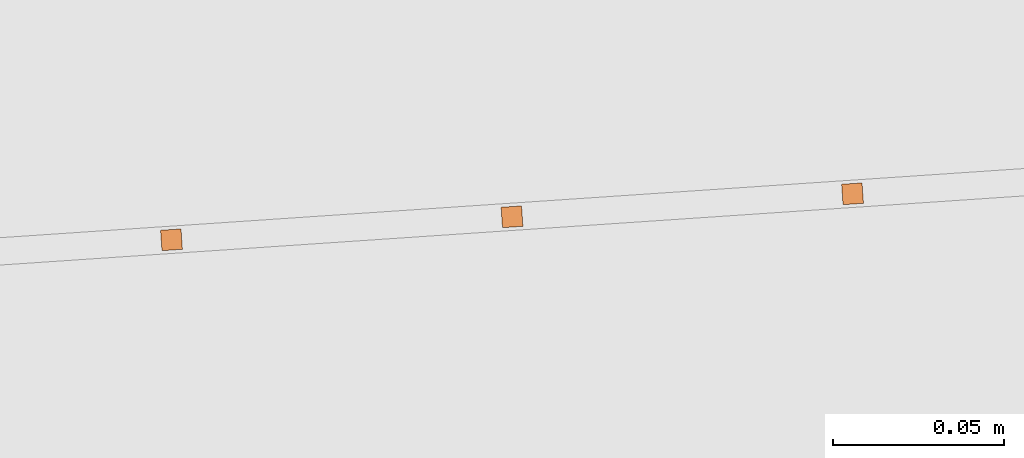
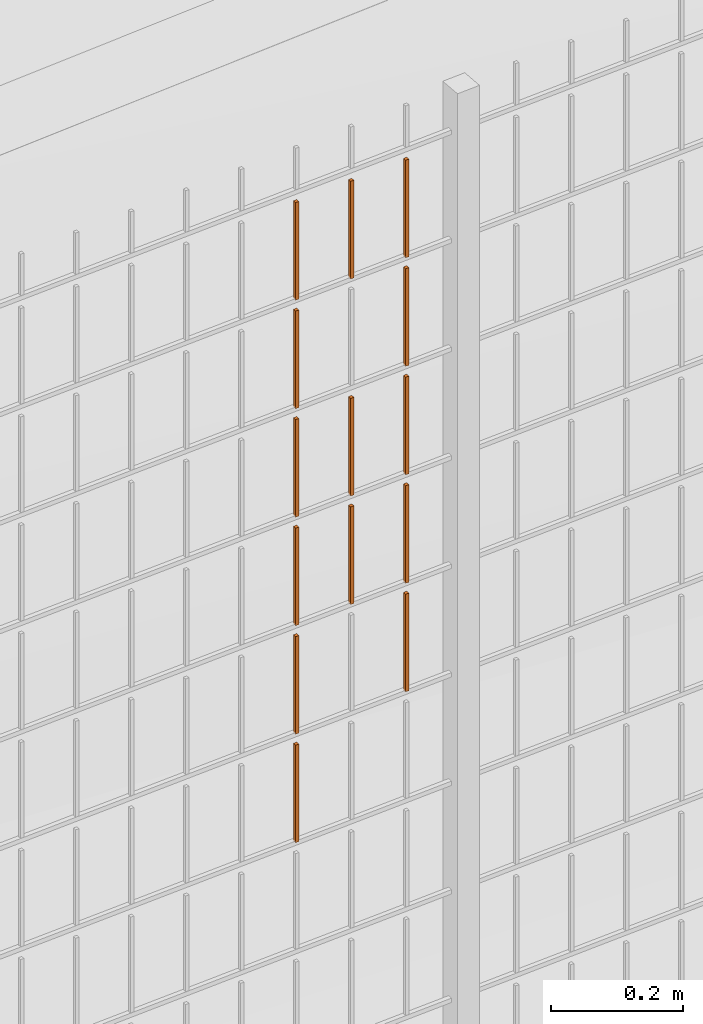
# One storey, part 388 of 1809: 14 proxies, 1 element without a shape of its own.
"""IFC2X3 building model written with IfcOpenShell, lengths in millimetres."""

from ifc_helpers import new_model, entity, si_unit, converted_unit, derived_unit, money_unit, direction, frame, origin_with_axes, place, context, subcontext, project, spatial, faceted_brep, source, transform, mapped, material, type_object, element, aggregate, save


model = new_model("IFC2X3")

# Units and contexts
model_context = context("Model", 3, precision=0.01, world=origin_with_axes(), true_north=direction((0.0, 1.0)))
body_context = subcontext(model_context, "Body", "Model", "MODEL_VIEW")
ifc_project = project(units=[si_unit("LENGTHUNIT", "METRE", prefix="MILLI"), si_unit("AREAUNIT", "SQUARE_METRE"), si_unit("VOLUMEUNIT", "CUBIC_METRE"), converted_unit("PLANEANGLEUNIT", "DEGREE", entity("IfcPlaneAngleMeasure", 0.0174532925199), si_unit("PLANEANGLEUNIT", "RADIAN"), dimensions=[0, 0, 0, 0, 0, 0, 0]), si_unit("SOLIDANGLEUNIT", "STERADIAN"), money_unit("EUR"), converted_unit("TIMEUNIT", "Year", entity("IfcTimeMeasure", 31556926.0), si_unit("TIMEUNIT", "SECOND"), dimensions=[0, 0, 1, 0, 0, 0, 0]), si_unit("MASSUNIT", "GRAM", prefix="KILO"), si_unit("THERMODYNAMICTEMPERATUREUNIT", "DEGREE_CELSIUS"), si_unit("LUMINOUSINTENSITYUNIT", "LUMEN"), si_unit("ENERGYUNIT", "JOULE", prefix="MEGA"), derived_unit("THERMALCONDUCTANCEUNIT", [(si_unit("POWERUNIT", "WATT"), 1), (si_unit("LENGTHUNIT", "METRE"), -1), (si_unit("THERMODYNAMICTEMPERATUREUNIT", "KELVIN"), -1)]), derived_unit("SPECIFICHEATCAPACITYUNIT", [(si_unit("ENERGYUNIT", "JOULE"), 1), (si_unit("MASSUNIT", "GRAM", prefix="KILO"), -1), (si_unit("THERMODYNAMICTEMPERATUREUNIT", "KELVIN"), -1)]), derived_unit("MASSDENSITYUNIT", [(si_unit("MASSUNIT", "GRAM", prefix="KILO"), 1), (si_unit("VOLUMEUNIT", "CUBIC_METRE"), -1)])], contexts=[model_context])

# Site, building, storey
site_placement = place(None, origin_with_axes())
site = spatial("IfcSite", under=ifc_project, at=site_placement, Name="Politse- ja Piirivalveameti ning Päästeameti ühishoone", CompositionType="ELEMENT")
building_placement = place(site_placement, origin_with_axes())
building = spatial("IfcBuilding", under=site, at=building_placement, Name="Politse- ja Piirivalveameti ning Päästeameti ühishoone", CompositionType="ELEMENT")
storey_placement = place(building_placement, origin_with_axes())
storey = spatial("IfcBuildingStorey", under=building, at=storey_placement, Name="Esimene korrus", CompositionType="ELEMENT", Elevation=0.0)

# Proxies
building_element_proxy_type_1 = type_object("IfcBuildingElementProxyType", Name="Railing Type", PredefinedType="NOTDEFINED")
proxy_1_placement = place(storey_placement, frame((89252.001212, -29183.4766571, 203.661247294), z_axis=(0.0, 0.0, 1.0), x_axis=(1.0, 0.0, 0.0)))
proxy_1 = element("IfcBuildingElementProxy", 1, at=proxy_1_placement, inside=storey, type_object=building_element_proxy_type_1, Name="PIIRDEAED")
ifc_material = material(Name="ET-03_Raud")
building_element_proxy_type_2 = type_object("IfcBuildingElementProxyType", Name="IfcBuildingElementProxy", PredefinedType="NOTDEFINED")
shared_shape_1 = source(origin_with_axes(), body_context, "Body", "Brep", [
    faceted_brep([(3.0, 3.0, -0.000752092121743), (-3.0, 3.0, -0.000752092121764), (-3.0, 3.0, 179.99926046), (3.0, 3.0, 179.99926046), (3.0, -3.0, 0.000752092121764), (-3.0, -3.0, 0.000752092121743), (-3.0, -3.0, 180.000764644), (3.0, -3.0, 180.000764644)], [[[0, 1, 2, 3]], [[0, 4, 5, 1]], [[1, 5, 6, 2]], [[3, 2, 6, 7]], [[4, 0, 3, 7]], [[5, 4, 7, 6]]]),
])
proxy_2_placement = place(proxy_1_placement, frame((-14992.5252487, -18310.4632624, 1423.4672343), z_axis=(0.0, 0.0, 1.0), x_axis=(1.0, 0.0, 0.0)))
proxy_2 = element("IfcBuildingElementProxy", 2, at=proxy_2_placement, type_object=building_element_proxy_type_2, material=ifc_material, Name="BALUSTER - 001", context=body_context, shape_type="MappedRepresentation", body=[
    mapped(shared_shape_1, transform((0.0, 0.0, 0.0), x_axis=(-0.0673926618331, 0.997726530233, 0.0), y_axis=(-0.997726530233, -0.0673926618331, 0.0), z_axis=(0.0, 0.0, 1.0))),
])
shared_shape_2 = source(origin_with_axes(), body_context, "Body", "Brep", [
    faceted_brep([(3.0, 3.0, -0.000752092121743), (-3.0, 3.0, -0.000752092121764), (-3.0, 3.0, 179.99926046), (3.0, 3.0, 179.99926046), (3.0, -3.0, 0.000752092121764), (-3.0, -3.0, 0.000752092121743), (-3.0, -3.0, 180.000764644), (3.0, -3.0, 180.000764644)], [[[0, 1, 2, 3]], [[0, 4, 5, 1]], [[1, 5, 6, 2]], [[3, 2, 6, 7]], [[4, 0, 3, 7]], [[5, 4, 7, 6]]]),
])
proxy_3_placement = place(proxy_1_placement, frame((-14992.5252487, -18310.4632624, 1223.4672343), z_axis=(0.0, 0.0, 1.0), x_axis=(1.0, 0.0, 0.0)))
proxy_3 = element("IfcBuildingElementProxy", 3, at=proxy_3_placement, type_object=building_element_proxy_type_2, material=ifc_material, Name="BALUSTER - 001", context=body_context, shape_type="MappedRepresentation", body=[
    mapped(shared_shape_2, transform((0.0, 0.0, 0.0), x_axis=(-0.0673926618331, 0.997726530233, 0.0), y_axis=(-0.997726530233, -0.0673926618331, 0.0), z_axis=(0.0, 0.0, 1.0))),
])
shared_shape_3 = source(origin_with_axes(), body_context, "Body", "Brep", [
    faceted_brep([(3.0, 3.0, -0.000752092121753), (-3.0, 3.0, -0.000752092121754), (-3.0, 3.0, 179.99926046), (3.0, 3.0, 179.99926046), (3.0, -3.0, 0.000752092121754), (-3.0, -3.0, 0.000752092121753), (-3.0, -3.0, 180.000764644), (3.0, -3.0, 180.000764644)], [[[0, 1, 2, 3]], [[0, 4, 5, 1]], [[1, 5, 6, 2]], [[3, 2, 6, 7]], [[4, 0, 3, 7]], [[5, 4, 7, 6]]]),
])
proxy_4_placement = place(proxy_1_placement, frame((-15092.2979017, -18317.2025286, 823.44216456), z_axis=(0.0, 0.0, 1.0), x_axis=(1.0, 0.0, 0.0)))
proxy_4 = element("IfcBuildingElementProxy", 4, at=proxy_4_placement, type_object=building_element_proxy_type_2, material=ifc_material, Name="BALUSTER - 001", context=body_context, shape_type="MappedRepresentation", body=[
    mapped(shared_shape_3, transform((0.0, 0.0, 0.0), x_axis=(-0.0673926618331, 0.997726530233, 0.0), y_axis=(-0.997726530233, -0.0673926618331, 0.0), z_axis=(0.0, 0.0, 1.0))),
])
proxy_5_placement = place(proxy_1_placement, frame((-15092.2979017, -18317.2025286, 1823.44216456), z_axis=(0.0, 0.0, 1.0), x_axis=(1.0, 0.0, 0.0)))
proxy_5 = element("IfcBuildingElementProxy", 5, at=proxy_5_placement, type_object=building_element_proxy_type_2, material=ifc_material, Name="BALUSTER - 001", context=body_context, shape_type="MappedRepresentation", body=[
    mapped(shared_shape_3, transform((0.0, 0.0, 0.0), x_axis=(-0.0673926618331, 0.997726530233, 0.0), y_axis=(-0.997726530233, -0.0673926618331, 0.0), z_axis=(0.0, 0.0, 1.0))),
])
shared_shape_4 = source(origin_with_axes(), body_context, "Body", "Brep", [
    faceted_brep([(3.0, 3.0, -0.000752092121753), (-3.0, 3.0, -0.000752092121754), (-3.0, 3.0, 179.99926046), (3.0, 3.0, 179.99926046), (3.0, -3.0, 0.000752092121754), (-3.0, -3.0, 0.000752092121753), (-3.0, -3.0, 180.000764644), (3.0, -3.0, 180.000764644)], [[[0, 1, 2, 3]], [[0, 4, 5, 1]], [[1, 5, 6, 2]], [[3, 2, 6, 7]], [[4, 0, 3, 7]], [[5, 4, 7, 6]]]),
])
proxy_6_placement = place(proxy_1_placement, frame((-15092.2979017, -18317.2025286, 1223.44216456), z_axis=(0.0, 0.0, 1.0), x_axis=(1.0, 0.0, 0.0)))
proxy_6 = element("IfcBuildingElementProxy", 6, at=proxy_6_placement, type_object=building_element_proxy_type_2, material=ifc_material, Name="BALUSTER - 001", context=body_context, shape_type="MappedRepresentation", body=[
    mapped(shared_shape_4, transform((0.0, 0.0, 0.0), x_axis=(-0.0673926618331, 0.997726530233, 0.0), y_axis=(-0.997726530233, -0.0673926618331, 0.0), z_axis=(0.0, 0.0, 1.0))),
])
shared_shape_5 = source(origin_with_axes(), body_context, "Body", "Brep", [
    faceted_brep([(3.0, 3.0, -0.000752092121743), (-3.0, 3.0, -0.000752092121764), (-3.0, 3.0, 179.99926046), (3.0, 3.0, 179.99926046), (3.0, -3.0, 0.000752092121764), (-3.0, -3.0, 0.000752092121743), (-3.0, -3.0, 180.000764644), (3.0, -3.0, 180.000764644)], [[[0, 1, 2, 3]], [[0, 4, 5, 1]], [[1, 5, 6, 2]], [[3, 2, 6, 7]], [[4, 0, 3, 7]], [[5, 4, 7, 6]]]),
])
proxy_7_placement = place(proxy_1_placement, frame((-14992.5252487, -18310.4632624, 1823.4672343), z_axis=(0.0, 0.0, 1.0), x_axis=(1.0, 0.0, 0.0)))
proxy_7 = element("IfcBuildingElementProxy", 7, at=proxy_7_placement, type_object=building_element_proxy_type_2, material=ifc_material, Name="BALUSTER - 001", context=body_context, shape_type="MappedRepresentation", body=[
    mapped(shared_shape_5, transform((0.0, 0.0, 0.0), x_axis=(-0.0673926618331, 0.997726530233, 0.0), y_axis=(-0.997726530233, -0.0673926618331, 0.0), z_axis=(0.0, 0.0, 1.0))),
])
shared_shape_6 = source(origin_with_axes(), body_context, "Body", "Brep", [
    faceted_brep([(3.0, 3.0, -0.000752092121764), (-3.0, 3.0, -0.000752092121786), (-3.0, 3.0, 179.99926046), (3.0, 3.0, 179.99926046), (3.0, -3.0, 0.000752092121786), (-3.0, -3.0, 0.000752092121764), (-3.0, -3.0, 180.000764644), (3.0, -3.0, 180.000764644)], [[[0, 1, 2, 3]], [[0, 4, 5, 1]], [[1, 5, 6, 2]], [[3, 2, 6, 7]], [[4, 0, 3, 7]], [[5, 4, 7, 6]]]),
])
proxy_8_placement = place(proxy_1_placement, frame((-14892.7525957, -18303.7239962, 1223.49230403), z_axis=(0.0, 0.0, 1.0), x_axis=(1.0, 0.0, 0.0)))
proxy_8 = element("IfcBuildingElementProxy", 8, at=proxy_8_placement, type_object=building_element_proxy_type_2, material=ifc_material, Name="BALUSTER - 001", context=body_context, shape_type="MappedRepresentation", body=[
    mapped(shared_shape_6, transform((0.0, 0.0, 0.0), x_axis=(-0.0673926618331, 0.997726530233, 0.0), y_axis=(-0.997726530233, -0.0673926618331, 0.0), z_axis=(0.0, 0.0, 1.0))),
])
shared_shape_7 = source(origin_with_axes(), body_context, "Body", "Brep", [
    faceted_brep([(3.0, 3.0, -0.000752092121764), (-3.0, 3.0, -0.000752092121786), (-3.0, 3.0, 179.99926046), (3.0, 3.0, 179.99926046), (3.0, -3.0, 0.000752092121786), (-3.0, -3.0, 0.000752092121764), (-3.0, -3.0, 180.000764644), (3.0, -3.0, 180.000764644)], [[[0, 1, 2, 3]], [[0, 4, 5, 1]], [[1, 5, 6, 2]], [[3, 2, 6, 7]], [[4, 0, 3, 7]], [[5, 4, 7, 6]]]),
])
proxy_9_placement = place(proxy_1_placement, frame((-14892.7525957, -18303.7239962, 1823.49230403), z_axis=(0.0, 0.0, 1.0), x_axis=(1.0, 0.0, 0.0)))
proxy_9 = element("IfcBuildingElementProxy", 9, at=proxy_9_placement, type_object=building_element_proxy_type_2, material=ifc_material, Name="BALUSTER - 001", context=body_context, shape_type="MappedRepresentation", body=[
    mapped(shared_shape_7, transform((0.0, 0.0, 0.0), x_axis=(-0.0673926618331, 0.997726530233, 0.0), y_axis=(-0.997726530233, -0.0673926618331, 0.0), z_axis=(0.0, 0.0, 1.0))),
])
shared_shape_8 = source(origin_with_axes(), body_context, "Body", "Brep", [
    faceted_brep([(3.0, 3.0, -0.000752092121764), (-3.0, 3.0, -0.000752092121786), (-3.0, 3.0, 179.99926046), (3.0, 3.0, 179.99926046), (3.0, -3.0, 0.000752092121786), (-3.0, -3.0, 0.000752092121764), (-3.0, -3.0, 180.000764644), (3.0, -3.0, 180.000764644)], [[[0, 1, 2, 3]], [[0, 4, 5, 1]], [[1, 5, 6, 2]], [[3, 2, 6, 7]], [[4, 0, 3, 7]], [[5, 4, 7, 6]]]),
])
proxy_10_placement = place(proxy_1_placement, frame((-14892.7525957, -18303.7239962, 1423.49230403), z_axis=(0.0, 0.0, 1.0), x_axis=(1.0, 0.0, 0.0)))
proxy_10 = element("IfcBuildingElementProxy", 10, at=proxy_10_placement, type_object=building_element_proxy_type_2, material=ifc_material, Name="BALUSTER - 001", context=body_context, shape_type="MappedRepresentation", body=[
    mapped(shared_shape_8, transform((0.0, 0.0, 0.0), x_axis=(-0.0673926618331, 0.997726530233, 0.0), y_axis=(-0.997726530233, -0.0673926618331, 0.0), z_axis=(0.0, 0.0, 1.0))),
])
shared_shape_9 = source(origin_with_axes(), body_context, "Body", "Brep", [
    faceted_brep([(3.0, 3.0, -0.000752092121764), (-3.0, 3.0, -0.000752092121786), (-3.0, 3.0, 179.99926046), (3.0, 3.0, 179.99926046), (3.0, -3.0, 0.000752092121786), (-3.0, -3.0, 0.000752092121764), (-3.0, -3.0, 180.000764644), (3.0, -3.0, 180.000764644)], [[[0, 1, 2, 3]], [[0, 4, 5, 1]], [[1, 5, 6, 2]], [[3, 2, 6, 7]], [[4, 0, 3, 7]], [[5, 4, 7, 6]]]),
])
proxy_11_placement = place(proxy_1_placement, frame((-14892.7525957, -18303.7239962, 1623.49230403), z_axis=(0.0, 0.0, 1.0), x_axis=(1.0, 0.0, 0.0)))
proxy_11 = element("IfcBuildingElementProxy", 11, at=proxy_11_placement, type_object=building_element_proxy_type_2, material=ifc_material, Name="BALUSTER - 001", context=body_context, shape_type="MappedRepresentation", body=[
    mapped(shared_shape_9, transform((0.0, 0.0, 0.0), x_axis=(-0.0673926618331, 0.997726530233, 0.0), y_axis=(-0.997726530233, -0.0673926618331, 0.0), z_axis=(0.0, 0.0, 1.0))),
])
shared_shape_10 = source(origin_with_axes(), body_context, "Body", "Brep", [
    faceted_brep([(3.0, 3.0, -0.000752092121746), (-3.0, 3.0, -0.000752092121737), (-3.00000000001, 2.99999999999, 179.99926046), (2.99999999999, 2.99999999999, 179.99926046), (3.0, -3.0, 0.000752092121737), (-3.0, -3.0, 0.000752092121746), (-3.00000000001, -3.00000000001, 180.000764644), (2.99999999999, -3.00000000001, 180.000764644)], [[[0, 1, 2, 3]], [[0, 4, 5, 1]], [[1, 5, 6, 2]], [[3, 2, 6, 7]], [[4, 0, 3, 7]], [[5, 4, 7, 6]]]),
])
proxy_12_placement = place(proxy_1_placement, frame((-15092.2979017, -18317.2025286, 1023.44216456), z_axis=(0.0, 0.0, 1.0), x_axis=(1.0, 0.0, 0.0)))
proxy_12 = element("IfcBuildingElementProxy", 12, at=proxy_12_placement, type_object=building_element_proxy_type_2, material=ifc_material, Name="BALUSTER - 001", context=body_context, shape_type="MappedRepresentation", body=[
    mapped(shared_shape_10, transform((0.0, 0.0, 0.0), x_axis=(-0.0673926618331, 0.997726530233, 0.0), y_axis=(-0.997726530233, -0.0673926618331, 0.0), z_axis=(0.0, 0.0, 1.0))),
])
shared_shape_11 = source(origin_with_axes(), body_context, "Body", "Brep", [
    faceted_brep([(3.0, 3.0, -0.000752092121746), (-3.0, 3.0, -0.000752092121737), (-3.00000000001, 2.99999999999, 179.99926046), (2.99999999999, 2.99999999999, 179.99926046), (3.0, -3.0, 0.000752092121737), (-3.0, -3.0, 0.000752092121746), (-3.00000000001, -3.00000000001, 180.000764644), (2.99999999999, -3.00000000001, 180.000764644)], [[[0, 1, 2, 3]], [[0, 4, 5, 1]], [[1, 5, 6, 2]], [[3, 2, 6, 7]], [[4, 0, 3, 7]], [[5, 4, 7, 6]]]),
])
proxy_13_placement = place(proxy_1_placement, frame((-14892.7525957, -18303.7239962, 1023.49230403), z_axis=(0.0, 0.0, 1.0), x_axis=(1.0, 0.0, 0.0)))
proxy_13 = element("IfcBuildingElementProxy", 13, at=proxy_13_placement, type_object=building_element_proxy_type_2, material=ifc_material, Name="BALUSTER - 001", context=body_context, shape_type="MappedRepresentation", body=[
    mapped(shared_shape_11, transform((0.0, 0.0, 0.0), x_axis=(-0.0673926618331, 0.997726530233, 0.0), y_axis=(-0.997726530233, -0.0673926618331, 0.0), z_axis=(0.0, 0.0, 1.0))),
])
shared_shape_12 = source(origin_with_axes(), body_context, "Body", "Brep", [
    faceted_brep([(3.0, 3.0, -0.000752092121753), (-3.0, 3.0, -0.000752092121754), (-3.0, 3.0, 179.99926046), (3.0, 3.0, 179.99926046), (3.0, -3.0, 0.000752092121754), (-3.0, -3.0, 0.000752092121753), (-3.0, -3.0, 180.000764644), (3.0, -3.0, 180.000764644)], [[[0, 1, 2, 3]], [[0, 4, 5, 1]], [[1, 5, 6, 2]], [[3, 2, 6, 7]], [[4, 0, 3, 7]], [[5, 4, 7, 6]]]),
])
proxy_14_placement = place(proxy_1_placement, frame((-15092.2979017, -18317.2025286, 1423.44216456), z_axis=(0.0, 0.0, 1.0), x_axis=(1.0, 0.0, 0.0)))
proxy_14 = element("IfcBuildingElementProxy", 14, at=proxy_14_placement, type_object=building_element_proxy_type_2, material=ifc_material, Name="BALUSTER - 001", context=body_context, shape_type="MappedRepresentation", body=[
    mapped(shared_shape_12, transform((0.0, 0.0, 0.0), x_axis=(-0.0673926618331, 0.997726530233, 0.0), y_axis=(-0.997726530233, -0.0673926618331, 0.0), z_axis=(0.0, 0.0, 1.0))),
])
proxy_15_placement = place(proxy_1_placement, frame((-15092.2979017, -18317.2025286, 1623.44216456), z_axis=(0.0, 0.0, 1.0), x_axis=(1.0, 0.0, 0.0)))
proxy_15 = element("IfcBuildingElementProxy", 15, at=proxy_15_placement, type_object=building_element_proxy_type_2, material=ifc_material, Name="BALUSTER - 001", context=body_context, shape_type="MappedRepresentation", body=[
    mapped(shared_shape_12, transform((0.0, 0.0, 0.0), x_axis=(-0.0673926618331, 0.997726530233, 0.0), y_axis=(-0.997726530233, -0.0673926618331, 0.0), z_axis=(0.0, 0.0, 1.0))),
])
aggregate(proxy_1, [proxy_4, proxy_13, proxy_12, proxy_8, proxy_3, proxy_6, proxy_10, proxy_2, proxy_14, proxy_11, proxy_15, proxy_9, proxy_7, proxy_5])

save(model, "model.ifc")
